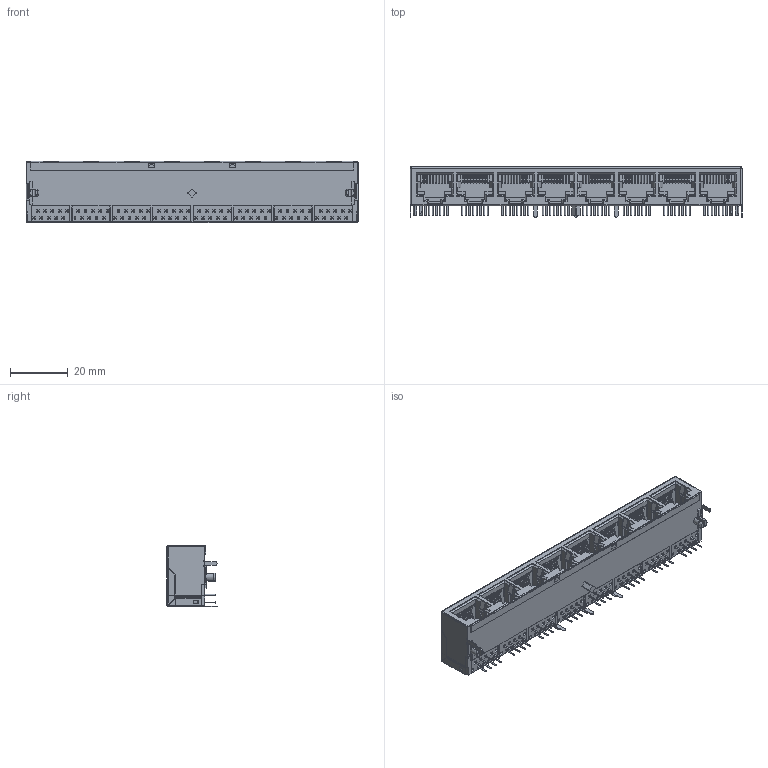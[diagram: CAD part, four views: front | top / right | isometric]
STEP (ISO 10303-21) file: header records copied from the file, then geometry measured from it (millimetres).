
FILE_DESCRIPTION((''),'2;1');
FILE_NAME('5921_10P10C_1X8_030_ASM','2020-03-31T13:47:12',('Administrator'),(''),'CREO PARAMETRIC BY PTC INC, 2018400','CREO PARAMETRIC BY PTC INC, 2018400','');
FILE_SCHEMA(('CONFIG_CONTROL_DESIGN'));
Length unit declared in the file: millimetre
Products named in the file (6): 5921_10P10C_1X8_030_SU; CAXING; ZHEN-Y-1; XIAN-Y-030; 5921_10P10C_1X8_030_TONGKE; 5921_10P10C_1X8_030_ASM
Assembly tree (140 placements, depth 2):
  5921_10P10C_1X8_030_ASM
    5921_10P10C_1X8_030_SU
    CAXING  x8
    ZHEN-Y-1  x64
    XIAN-Y-030  x66
    5921_10P10C_1X8_030_TONGKE
Bounding box: 114.78 x 17.35 x 21.15 mm (x, y, z)
Volume: 17648 mm3; surface area: 42140.7 mm2
Topology: 140 solids, 140 shells, 4199 faces, 10550 edges, 6468 vertices
Faces by surface type: plane 2496, cylinder 1251, torus 264, cone 166, bspline 22
Entity records: 56215 total; most frequent: CARTESIAN_POINT 12246, ORIENTED_EDGE 9406, DIRECTION 8421, EDGE_CURVE 4703, VECTOR 3941, LINE 3941, VERTEX_POINT 2888, AXIS2_PLACEMENT_3D 2240
